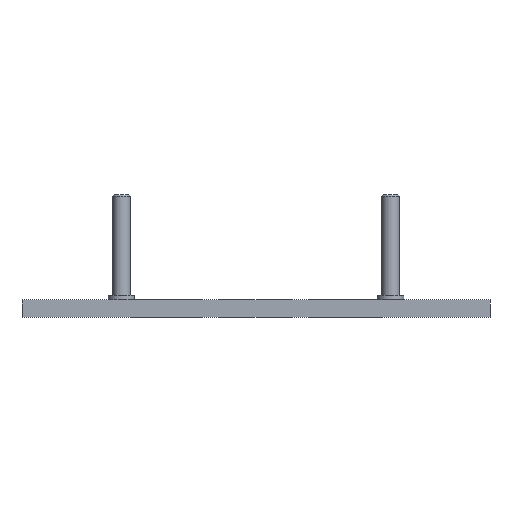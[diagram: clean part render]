
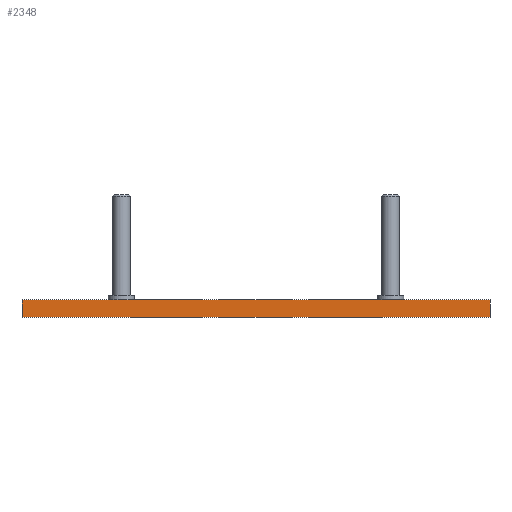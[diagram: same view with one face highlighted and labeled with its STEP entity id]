
A CAD part, front view. The second image highlights one B-rep face of the part: STEP entity #2348.
In plain terms, the highlighted planar face has unit normal (0, -1, 0).
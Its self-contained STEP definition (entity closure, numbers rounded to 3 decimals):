
#106=PLANE('',#2613);
#284=FACE_OUTER_BOUND('',#410,.T.);
#410=EDGE_LOOP('',(#2017,#2018,#2019,#2020));
#648=LINE('',#3983,#864);
#653=LINE('',#3994,#869);
#655=LINE('',#3997,#871);
#656=LINE('',#3998,#872);
#864=VECTOR('',#3299,10.);
#869=VECTOR('',#3308,10.);
#871=VECTOR('',#3312,10.);
#872=VECTOR('',#3313,10.);
#1209=VERTEX_POINT('',#3976);
#1212=VERTEX_POINT('',#3981);
#1215=VERTEX_POINT('',#3991);
#1216=VERTEX_POINT('',#3993);
#1544=EDGE_CURVE('',#1212,#1209,#648,.T.);
#1549=EDGE_CURVE('',#1216,#1215,#653,.T.);
#1551=EDGE_CURVE('',#1215,#1209,#655,.T.);
#1552=EDGE_CURVE('',#1216,#1212,#656,.T.);
#2017=ORIENTED_EDGE('',*,*,#1551,.T.);
#2018=ORIENTED_EDGE('',*,*,#1544,.F.);
#2019=ORIENTED_EDGE('',*,*,#1552,.F.);
#2020=ORIENTED_EDGE('',*,*,#1549,.T.);
#2348=ADVANCED_FACE('',(#284),#106,.T.);
#2613=AXIS2_PLACEMENT_3D('',#3996,#3310,#3311);
#3299=DIRECTION('',(0.,0.,1.));
#3308=DIRECTION('',(0.,0.,1.));
#3310=DIRECTION('center_axis',(0.,-1.,0.));
#3311=DIRECTION('ref_axis',(0.,0.,-1.));
#3312=DIRECTION('',(-1.,0.,0.));
#3313=DIRECTION('',(-1.,0.,0.));
#3976=CARTESIAN_POINT('',(-40.,-45.,3.));
#3981=CARTESIAN_POINT('',(-40.,-45.,0.));
#3983=CARTESIAN_POINT('',(-40.,-45.,0.));
#3991=CARTESIAN_POINT('',(40.,-45.,3.));
#3993=CARTESIAN_POINT('',(40.,-45.,0.));
#3994=CARTESIAN_POINT('',(40.,-45.,0.));
#3996=CARTESIAN_POINT('Origin',(40.,-45.,0.));
#3997=CARTESIAN_POINT('',(40.,-45.,3.));
#3998=CARTESIAN_POINT('',(40.,-45.,0.));
